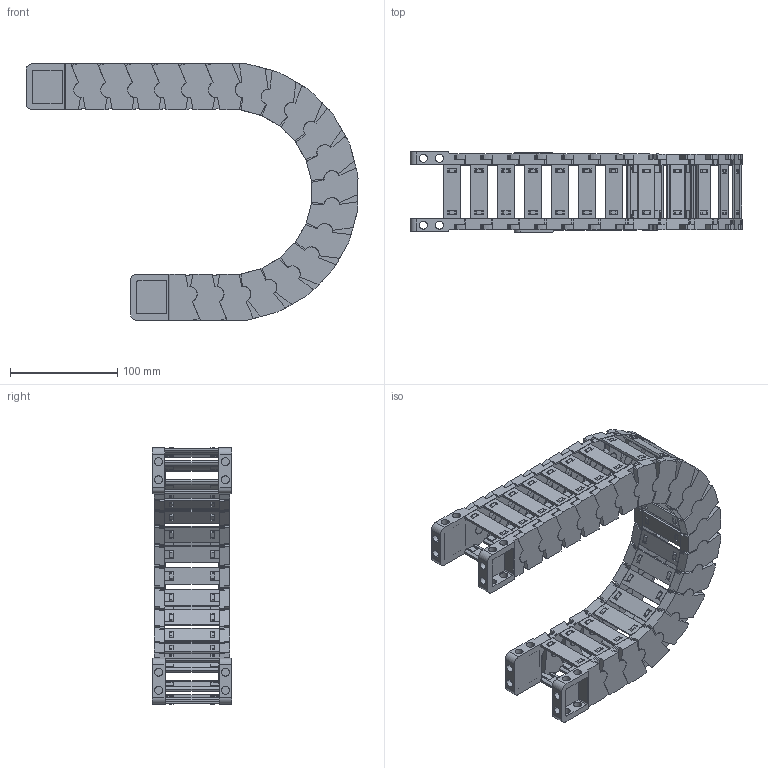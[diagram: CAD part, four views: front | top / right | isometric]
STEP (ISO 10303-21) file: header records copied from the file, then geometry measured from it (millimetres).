
FILE_DESCRIPTION((''),'2;1');
FILE_NAME('JY-35X50-R100_ASM','2022-05-06T17:00:49',('admin'),(''),'CREO PARAMETRIC BY PTC INC, 2021164','CREO PARAMETRIC BY PTC INC, 2021164','');
FILE_SCHEMA(('CONFIG_CONTROL_DESIGN','GEOMETRIC_VALIDATION_PROPERTIES_MIM'));
Length unit declared in the file: millimetre
Products named in the file (11): 35XL-L; 25-35XL-YP; 35XL-R; ASM0001_ASM; 35-LTT-A-L; 35-LTT-A-R; 35XL-LTT-A_ASM; 35-LTT-B-L; 35-LTT-B-R; 35XL-LTT-B_ASM; JY-35X50-R100_ASM
Assembly tree (33 placements, depth 3):
  JY-35X50-R100_ASM
    ASM0001_ASM  x19
      35XL-L
      25-35XL-YP
      35XL-R
    35XL-LTT-A_ASM
      35-LTT-A-L
      25-35XL-YP  x2
      35-LTT-A-R
    35XL-LTT-B_ASM
      35-LTT-B-L
      25-35XL-YP  x2
      35-LTT-B-R
Bounding box: 310.13 x 74.6 x 239.89 mm (x, y, z)
Volume: 542223.1 mm3; surface area: 331298.4 mm2
Topology: 84 solids, 84 shells, 4366 faces, 12770 edges, 8536 vertices
Faces by surface type: plane 3318, cylinder 1044, bspline 4
Entity records: 20862 total; most frequent: CARTESIAN_POINT 3243, ORIENTED_EDGE 2876, DIRECTION 2864, EDGE_CURVE 1438, VECTOR 1056, LINE 1056, VERTEX_POINT 964, AXIS2_PLACEMENT_3D 904
